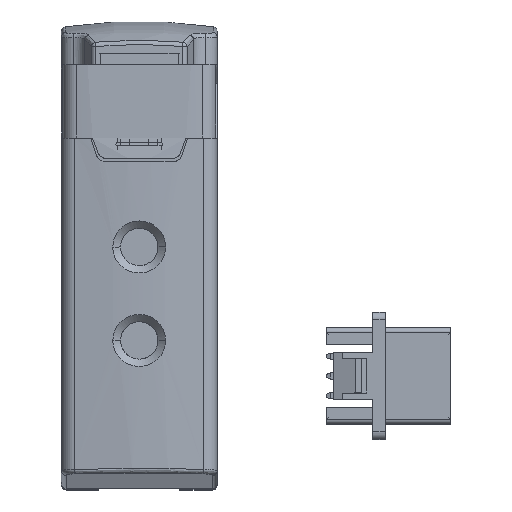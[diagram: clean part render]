
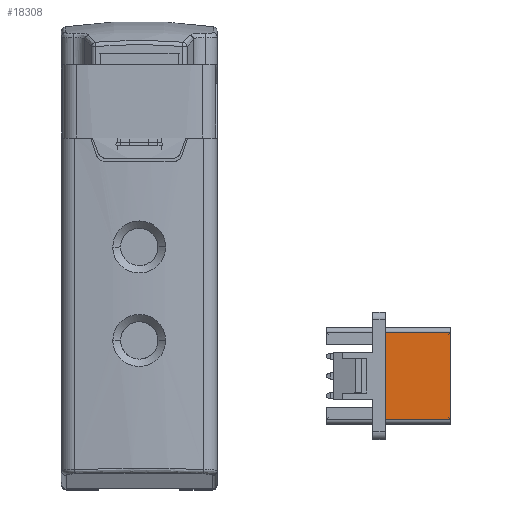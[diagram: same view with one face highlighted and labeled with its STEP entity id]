
A CAD part, top view. The second image highlights one B-rep face of the part: STEP entity #18308.
In plain terms, the highlighted planar face has unit normal (0, 0, 1).
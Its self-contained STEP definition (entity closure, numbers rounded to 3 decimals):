
#301 = VERTEX_POINT ( 'NONE', #51191 ) ;
#3182 = CARTESIAN_POINT ( 'NONE',  ( -35.569, 20.741, -20.846 ) ) ;
#3889 = EDGE_LOOP ( 'NONE', ( #56479, #20253, #52311, #12521 ) ) ;
#7516 = EDGE_CURVE ( 'NONE', #30955, #10033, #11312, .T. ) ;
#9615 = DIRECTION ( 'NONE',  ( -1., 0., 0. ) ) ;
#10033 = VERTEX_POINT ( 'NONE', #26279 ) ;
#10562 = LINE ( 'NONE', #52527, #32011 ) ;
#11312 = LINE ( 'NONE', #11582, #57018 ) ;
#11582 = CARTESIAN_POINT ( 'NONE',  ( -35.569, 21.041, -20.846 ) ) ;
#12521 = ORIENTED_EDGE ( 'NONE', *, *, #50753, .T. ) ;
#15013 = DIRECTION ( 'NONE',  ( 1., 0., 0. ) ) ;
#15165 = LINE ( 'NONE', #49293, #25540 ) ;
#15391 = DIRECTION ( 'NONE',  ( 0., 0., 1. ) ) ;
#16930 = LINE ( 'NONE', #27280, #55737 ) ;
#18308 = ADVANCED_FACE ( 'NONE', ( #50944 ), #50259, .T. ) ;
#20115 = DIRECTION ( 'NONE',  ( 0., 1., 0. ) ) ;
#20253 = ORIENTED_EDGE ( 'NONE', *, *, #47300, .T. ) ;
#25540 = VECTOR ( 'NONE', #9615, 1000. ) ;
#26279 = CARTESIAN_POINT ( 'NONE',  ( -35.569, 15.141, -20.846 ) ) ;
#27280 = CARTESIAN_POINT ( 'NONE',  ( -39.769, 14.841, -20.846 ) ) ;
#30955 = VERTEX_POINT ( 'NONE', #3182 ) ;
#32011 = VECTOR ( 'NONE', #43739, 1000. ) ;
#41868 = EDGE_CURVE ( 'NONE', #301, #44269, #16930, .T. ) ;
#42139 = DIRECTION ( 'NONE',  ( 0., -1., 0. ) ) ;
#43739 = DIRECTION ( 'NONE',  ( 1., 0., 0. ) ) ;
#44269 = VERTEX_POINT ( 'NONE', #57048 ) ;
#46532 = CARTESIAN_POINT ( 'NONE',  ( -43.569, 21.041, -20.846 ) ) ;
#46792 = AXIS2_PLACEMENT_3D ( 'NONE', #46532, #15391, #15013 ) ;
#47300 = EDGE_CURVE ( 'NONE', #301, #10033, #10562, .T. ) ;
#49293 = CARTESIAN_POINT ( 'NONE',  ( -43.569, 20.741, -20.846 ) ) ;
#50259 = PLANE ( 'NONE',  #46792 ) ;
#50753 = EDGE_CURVE ( 'NONE', #30955, #44269, #15165, .T. ) ;
#50944 = FACE_OUTER_BOUND ( 'NONE', #3889, .T. ) ;
#51191 = CARTESIAN_POINT ( 'NONE',  ( -39.769, 15.141, -20.846 ) ) ;
#52311 = ORIENTED_EDGE ( 'NONE', *, *, #7516, .F. ) ;
#52527 = CARTESIAN_POINT ( 'NONE',  ( -43.569, 15.141, -20.846 ) ) ;
#55737 = VECTOR ( 'NONE', #20115, 1000. ) ;
#56479 = ORIENTED_EDGE ( 'NONE', *, *, #41868, .F. ) ;
#57018 = VECTOR ( 'NONE', #42139, 1000. ) ;
#57048 = CARTESIAN_POINT ( 'NONE',  ( -39.769, 20.741, -20.846 ) ) ;
